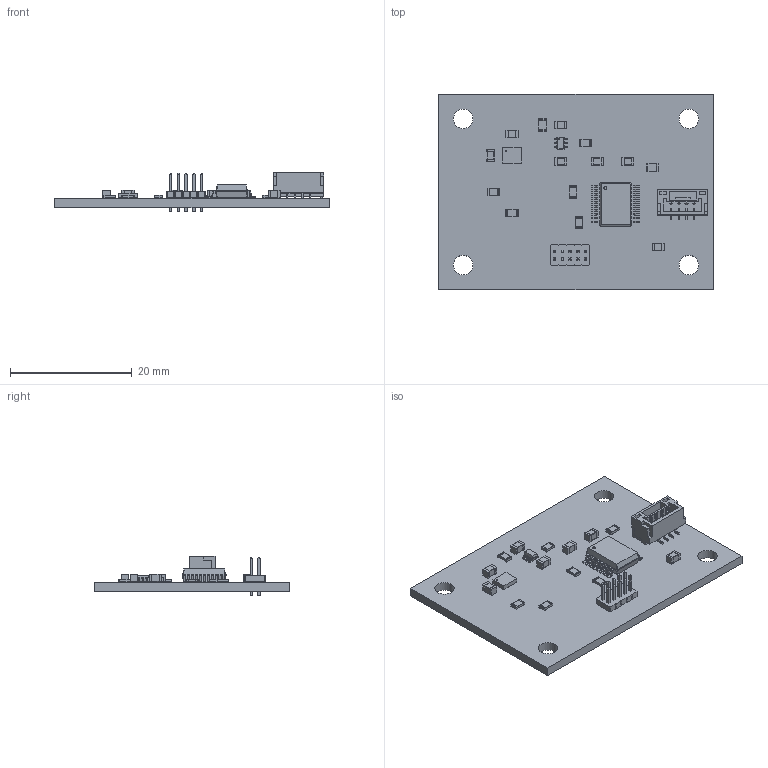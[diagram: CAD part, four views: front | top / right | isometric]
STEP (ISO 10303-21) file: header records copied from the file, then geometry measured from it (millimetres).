
FILE_DESCRIPTION(('KiCad electronic assembly'),'2;1');
FILE_NAME('SH-A01.step','2026-10-05T02:17:23',('Pcbnew'),('Kicad'), 'Open CASCADE STEP processor 7.9','KiCad to STEP converter','Unknown' );
FILE_SCHEMA(('AUTOMOTIVE_DESIGN { 1 0 10303 214 1 1 1 1 }'));
Length unit declared in the file: millimetre
Products named in the file (16): SH-A01 1; PinHeader_2x05_P1.27mm_Vertical; PinHeader_2x05_P127mm_Vertical; C_0805_2012Metric; R_0805_2012Metric; JST_GH_BM04B-GHS-TBT_1x04-1MP_P1.25mm_Vertical; JST_BM04B_GHS_TBT; SOT-363_SC-70-6; SSOP-20_5.3x7.2mm_P0.65mm; LGA-14_3x2.5mm_P0.5mm_LayoutBorder3x4y; LGA_14_3x25mm_P05mm_LayoutBorder3x4y; SH-A01_PCB
Assembly tree (27 placements, depth 3):
  SH-A01 1
    PinHeader_2x05_P1.27mm_Vertical
      PinHeader_2x05_P127mm_Vertical
    C_0805_2012Metric  x7
      C_0805_2012Metric
    R_0805_2012Metric  x7
      R_0805_2012Metric
    JST_GH_BM04B-GHS-TBT_1x04-1MP_P1.25mm_Vertical
      JST_BM04B_GHS_TBT
    SOT-363_SC-70-6
      SOT-363_SC-70-6
    SSOP-20_5.3x7.2mm_P0.65mm
      SSOP-20_5.3x7.2mm_P0.65mm
    LGA-14_3x2.5mm_P0.5mm_LayoutBorder3x4y
      LGA_14_3x25mm_P05mm_LayoutBorder3x4y
    SH-A01_PCB
Bounding box: 45 x 32 x 6.5 mm (x, y, z)
Volume: 2341.8 mm3; surface area: 3900.7 mm2
Topology: 20 solids, 20 shells, 1327 faces, 3450 edges, 2222 vertices
Faces by surface type: plane 1036, cylinder 259, bspline 32
Full cylindrical faces by diameter (mm): 0.2 x1, 0.65 x10, 3.2 x4
Entity records: 38210 total; most frequent: CARTESIAN_POINT 5455, ORIENTED_EDGE 5219, DIRECTION 4840, EDGE_CURVE 2610, LINE 2282, VECTOR 2282, VERTEX_POINT 1670, AXIS2_PLACEMENT_3D 1279
